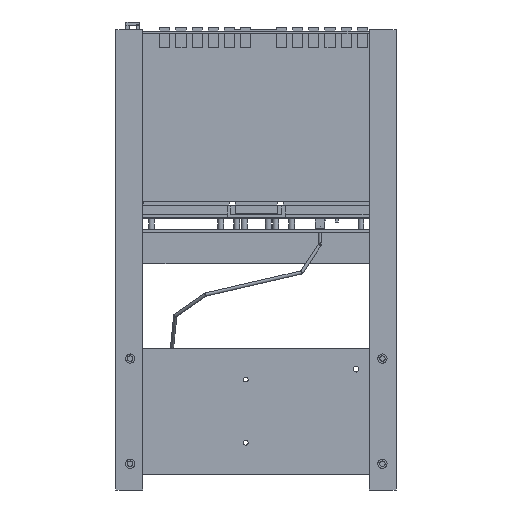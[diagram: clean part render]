
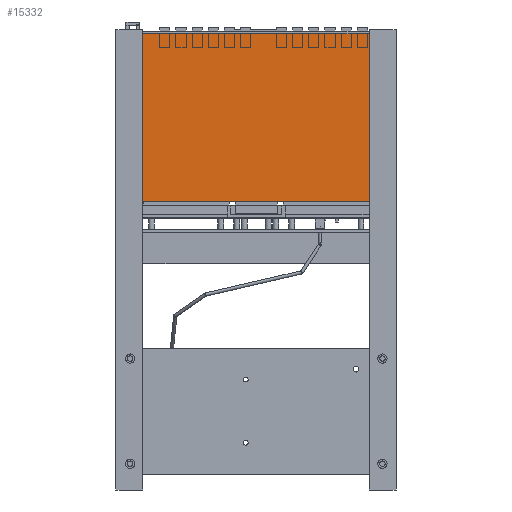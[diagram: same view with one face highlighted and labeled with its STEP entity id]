
A CAD part, left-side view. The second image highlights one B-rep face of the part: STEP entity #15332.
In plain terms, the highlighted planar face has unit normal (-1, 0, 0).
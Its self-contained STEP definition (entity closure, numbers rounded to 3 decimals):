
#15332 = ADVANCED_FACE('',(#15333),#15367,.F.);
#15333 = FACE_BOUND('',#15334,.F.);
#15334 = EDGE_LOOP('',(#15335,#15345,#15353,#15361));
#15335 = ORIENTED_EDGE('',*,*,#15336,.F.);
#15336 = EDGE_CURVE('',#15337,#15339,#15341,.T.);
#15337 = VERTEX_POINT('',#15338);
#15338 = CARTESIAN_POINT('',(-0.8,14.35,16.));
#15339 = VERTEX_POINT('',#15340);
#15340 = CARTESIAN_POINT('',(-0.8,14.35,176.));
#15341 = LINE('',#15342,#15343);
#15342 = CARTESIAN_POINT('',(-0.8,14.35,16.));
#15343 = VECTOR('',#15344,1.);
#15344 = DIRECTION('',(0.,0.,1.));
#15345 = ORIENTED_EDGE('',*,*,#15346,.T.);
#15346 = EDGE_CURVE('',#15337,#15347,#15349,.T.);
#15347 = VERTEX_POINT('',#15348);
#15348 = CARTESIAN_POINT('',(-0.8,247.7,16.));
#15349 = LINE('',#15350,#15351);
#15350 = CARTESIAN_POINT('',(-0.8,14.35,16.));
#15351 = VECTOR('',#15352,1.);
#15352 = DIRECTION('',(-0.,1.,0.));
#15353 = ORIENTED_EDGE('',*,*,#15354,.T.);
#15354 = EDGE_CURVE('',#15347,#15355,#15357,.T.);
#15355 = VERTEX_POINT('',#15356);
#15356 = CARTESIAN_POINT('',(-0.8,247.7,176.));
#15357 = LINE('',#15358,#15359);
#15358 = CARTESIAN_POINT('',(-0.8,247.7,16.));
#15359 = VECTOR('',#15360,1.);
#15360 = DIRECTION('',(0.,0.,1.));
#15361 = ORIENTED_EDGE('',*,*,#15362,.F.);
#15362 = EDGE_CURVE('',#15339,#15355,#15363,.T.);
#15363 = LINE('',#15364,#15365);
#15364 = CARTESIAN_POINT('',(-0.8,14.35,176.));
#15365 = VECTOR('',#15366,1.);
#15366 = DIRECTION('',(-0.,1.,0.));
#15367 = PLANE('',#15368);
#15368 = AXIS2_PLACEMENT_3D('',#15369,#15370,#15371);
#15369 = CARTESIAN_POINT('',(-0.8,14.35,16.));
#15370 = DIRECTION('',(1.,0.,-0.));
#15371 = DIRECTION('',(0.,0.,1.));
